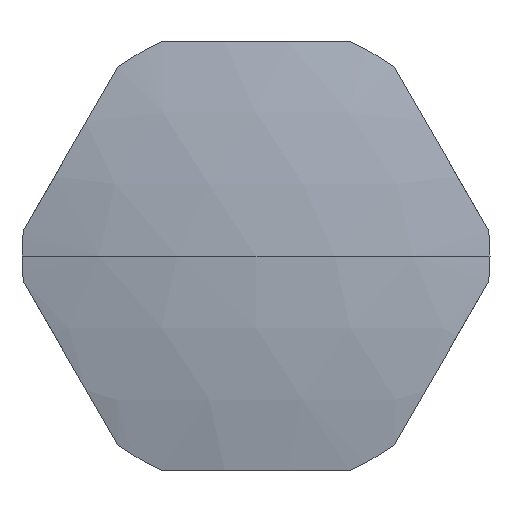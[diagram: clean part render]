
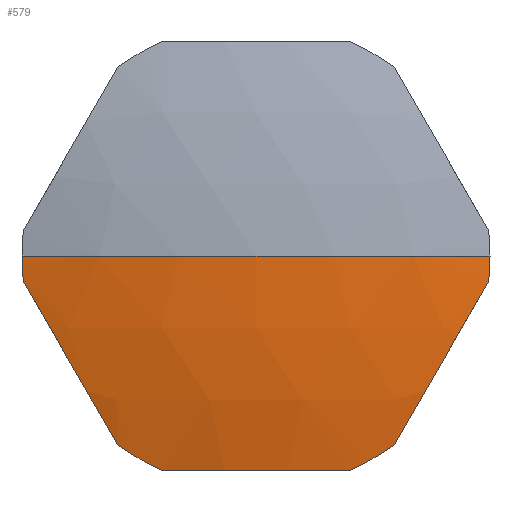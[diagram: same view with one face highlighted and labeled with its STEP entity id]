
A CAD part, left-side view. The second image highlights one B-rep face of the part: STEP entity #579.
In plain terms, the highlighted spherical face has radius 140 mm.
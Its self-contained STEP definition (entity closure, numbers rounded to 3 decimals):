
#8 = DIRECTION ( 'NONE',  ( 1., 0., 0. ) ) ;
#10 = CIRCLE ( 'NONE', #596, 35.5 ) ;
#19 = CARTESIAN_POINT ( 'NONE',  ( -66.424, 35.287, -3.881 ) ) ;
#33 = CIRCLE ( 'NONE', #519, 140. ) ;
#37 = CARTESIAN_POINT ( 'NONE',  ( 69., 0., -32.5 ) ) ;
#51 = DIRECTION ( 'NONE',  ( 0., 0., -1. ) ) ;
#57 = ORIENTED_EDGE ( 'NONE', *, *, #715, .T. ) ;
#66 = CARTESIAN_POINT ( 'NONE',  ( -66.424, 35.5, 0. ) ) ;
#73 = CARTESIAN_POINT ( 'NONE',  ( -66.424, 21.004, -28.619 ) ) ;
#84 = CARTESIAN_POINT ( 'NONE',  ( -66.424, -35.287, -3.881 ) ) ;
#98 = CARTESIAN_POINT ( 'NONE',  ( -66.424, 0., 0. ) ) ;
#99 = FACE_OUTER_BOUND ( 'NONE', #263, .T. ) ;
#101 = EDGE_CURVE ( 'NONE', #706, #713, #10, .T. ) ;
#102 = DIRECTION ( 'NONE',  ( -1., 0., 0. ) ) ;
#111 = SPHERICAL_SURFACE ( 'NONE', #491, 140. ) ;
#127 = CIRCLE ( 'NONE', #407, 35.5 ) ;
#129 = ORIENTED_EDGE ( 'NONE', *, *, #777, .F. ) ;
#131 = CARTESIAN_POINT ( 'NONE',  ( -66.424, -21.004, -28.619 ) ) ;
#139 = CIRCLE ( 'NONE', #712, 136.175 ) ;
#146 = AXIS2_PLACEMENT_3D ( 'NONE', #433, #566, #440 ) ;
#176 = CARTESIAN_POINT ( 'NONE',  ( 69., 0., 0. ) ) ;
#179 = DIRECTION ( 'NONE',  ( 0., 0., 1. ) ) ;
#180 = AXIS2_PLACEMENT_3D ( 'NONE', #689, #312, #498 ) ;
#183 = CARTESIAN_POINT ( 'NONE',  ( -66.424, -14.283, -32.5 ) ) ;
#207 = VERTEX_POINT ( 'NONE', #619 ) ;
#215 = CIRCLE ( 'NONE', #379, 136.175 ) ;
#236 = DIRECTION ( 'NONE',  ( 0., 0., -1. ) ) ;
#243 = DIRECTION ( 'NONE',  ( -1., 0., 0. ) ) ;
#244 = AXIS2_PLACEMENT_3D ( 'NONE', #98, #264, #633 ) ;
#248 = AXIS2_PLACEMENT_3D ( 'NONE', #249, #680, #328 ) ;
#249 = CARTESIAN_POINT ( 'NONE',  ( 69., 0., 0. ) ) ;
#263 = EDGE_LOOP ( 'NONE', ( #509, #465, #555, #780, #671, #678, #765, #57, #129 ) ) ;
#264 = DIRECTION ( 'NONE',  ( -1., 0., 0. ) ) ;
#267 = EDGE_CURVE ( 'NONE', #594, #207, #33, .T. ) ;
#276 = EDGE_CURVE ( 'NONE', #713, #207, #709, .T. ) ;
#293 = VERTEX_POINT ( 'NONE', #19 ) ;
#308 = CARTESIAN_POINT ( 'NONE',  ( -66.424, -35.5, 0. ) ) ;
#312 = DIRECTION ( 'NONE',  ( 0., -0.866, -0.5 ) ) ;
#328 = DIRECTION ( 'NONE',  ( 0., 1., 0. ) ) ;
#334 = EDGE_CURVE ( 'NONE', #594, #293, #358, .T. ) ;
#335 = DIRECTION ( 'NONE',  ( 0., 0., 1. ) ) ;
#350 = CARTESIAN_POINT ( 'NONE',  ( -66.424, 0., 0. ) ) ;
#358 = CIRCLE ( 'NONE', #244, 35.5 ) ;
#361 = CARTESIAN_POINT ( 'NONE',  ( 69., 28.146, -16.25 ) ) ;
#379 = AXIS2_PLACEMENT_3D ( 'NONE', #37, #51, #583 ) ;
#407 = AXIS2_PLACEMENT_3D ( 'NONE', #350, #102, #335 ) ;
#413 = EDGE_CURVE ( 'NONE', #539, #649, #127, .T. ) ;
#414 = CARTESIAN_POINT ( 'NONE',  ( -66.424, 14.283, -32.5 ) ) ;
#421 = DIRECTION ( 'NONE',  ( 0., 1., 0. ) ) ;
#425 = DIRECTION ( 'NONE',  ( 0., 0.5, 0.866 ) ) ;
#433 = CARTESIAN_POINT ( 'NONE',  ( -66.424, 0., 0. ) ) ;
#440 = DIRECTION ( 'NONE',  ( 0., 0., 1. ) ) ;
#465 = ORIENTED_EDGE ( 'NONE', *, *, #276, .T. ) ;
#474 = CIRCLE ( 'NONE', #180, 136.175 ) ;
#477 = DIRECTION ( 'NONE',  ( 0., 0.866, -0.5 ) ) ;
#486 = CIRCLE ( 'NONE', #146, 35.5 ) ;
#488 = CARTESIAN_POINT ( 'NONE',  ( 69., 0., 0. ) ) ;
#491 = AXIS2_PLACEMENT_3D ( 'NONE', #176, #236, #421 ) ;
#496 = EDGE_CURVE ( 'NONE', #696, #649, #215, .T. ) ;
#498 = DIRECTION ( 'NONE',  ( 0., 0.5, -0.866 ) ) ;
#509 = ORIENTED_EDGE ( 'NONE', *, *, #101, .T. ) ;
#512 = EDGE_CURVE ( 'NONE', #539, #293, #139, .T. ) ;
#519 = AXIS2_PLACEMENT_3D ( 'NONE', #488, #556, #8 ) ;
#539 = VERTEX_POINT ( 'NONE', #73 ) ;
#555 = ORIENTED_EDGE ( 'NONE', *, *, #267, .F. ) ;
#556 = DIRECTION ( 'NONE',  ( 0., 0., 1. ) ) ;
#566 = DIRECTION ( 'NONE',  ( -1., 0., 0. ) ) ;
#579 = ADVANCED_FACE ( 'NONE', ( #99 ), #111, .T. ) ;
#583 = DIRECTION ( 'NONE',  ( 0., 1., 0. ) ) ;
#594 = VERTEX_POINT ( 'NONE', #66 ) ;
#596 = AXIS2_PLACEMENT_3D ( 'NONE', #784, #243, #179 ) ;
#619 = CARTESIAN_POINT ( 'NONE',  ( -71., 0., 0. ) ) ;
#633 = DIRECTION ( 'NONE',  ( 0., 0., 1. ) ) ;
#649 = VERTEX_POINT ( 'NONE', #414 ) ;
#671 = ORIENTED_EDGE ( 'NONE', *, *, #512, .F. ) ;
#675 = VERTEX_POINT ( 'NONE', #131 ) ;
#678 = ORIENTED_EDGE ( 'NONE', *, *, #413, .T. ) ;
#680 = DIRECTION ( 'NONE',  ( 0., 0., -1. ) ) ;
#689 = CARTESIAN_POINT ( 'NONE',  ( 69., -28.146, -16.25 ) ) ;
#696 = VERTEX_POINT ( 'NONE', #183 ) ;
#706 = VERTEX_POINT ( 'NONE', #84 ) ;
#709 = CIRCLE ( 'NONE', #248, 140. ) ;
#712 = AXIS2_PLACEMENT_3D ( 'NONE', #361, #477, #425 ) ;
#713 = VERTEX_POINT ( 'NONE', #308 ) ;
#715 = EDGE_CURVE ( 'NONE', #696, #675, #486, .T. ) ;
#765 = ORIENTED_EDGE ( 'NONE', *, *, #496, .F. ) ;
#777 = EDGE_CURVE ( 'NONE', #706, #675, #474, .T. ) ;
#780 = ORIENTED_EDGE ( 'NONE', *, *, #334, .T. ) ;
#784 = CARTESIAN_POINT ( 'NONE',  ( -66.424, 0., 0. ) ) ;
